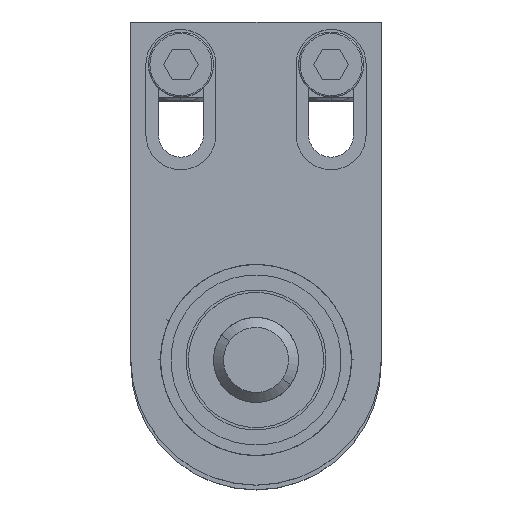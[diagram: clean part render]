
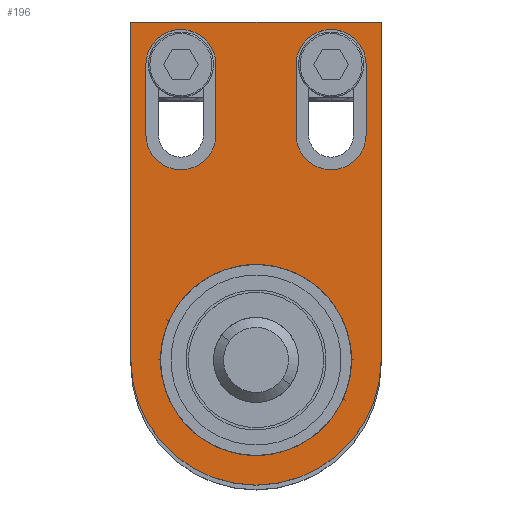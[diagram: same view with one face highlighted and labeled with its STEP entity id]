
A CAD part, top view. The second image highlights one B-rep face of the part: STEP entity #196.
In plain terms, the highlighted planar face has unit normal (0, 0, 1).
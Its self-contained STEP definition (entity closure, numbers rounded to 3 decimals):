
#29 = VECTOR ( 'NONE', #3446, 1000. ) ;
#33 = ORIENTED_EDGE ( 'NONE', *, *, #2317, .F. ) ;
#123 = EDGE_CURVE ( 'NONE', #1216, #1017, #4150, .T. ) ;
#196 = ADVANCED_FACE ( 'NONE', ( #1109, #2413, #4645, #5166 ), #3822, .T. ) ;
#234 = CARTESIAN_POINT ( 'NONE',  ( 8., 59., 6. ) ) ;
#274 = CARTESIAN_POINT ( 'NONE',  ( 25., 0., 6. ) ) ;
#293 = CARTESIAN_POINT ( 'NONE',  ( -8., 59., 6. ) ) ;
#362 = DIRECTION ( 'NONE',  ( 0., 0., 1. ) ) ;
#406 = VERTEX_POINT ( 'NONE', #4793 ) ;
#457 = DIRECTION ( 'NONE',  ( 0., 0., 1. ) ) ;
#618 = AXIS2_PLACEMENT_3D ( 'NONE', #4823, #903, #1039 ) ;
#629 = EDGE_LOOP ( 'NONE', ( #721, #4077, #1627, #4104 ) ) ;
#721 = ORIENTED_EDGE ( 'NONE', *, *, #1110, .F. ) ;
#757 = EDGE_CURVE ( 'NONE', #2417, #3147, #4551, .T. ) ;
#766 = DIRECTION ( 'NONE',  ( 1., 0., 0. ) ) ;
#811 = VERTEX_POINT ( 'NONE', #2382 ) ;
#824 = AXIS2_PLACEMENT_3D ( 'NONE', #2213, #1235, #766 ) ;
#899 = CARTESIAN_POINT ( 'NONE',  ( 0., 0., 6. ) ) ;
#903 = DIRECTION ( 'NONE',  ( 0., 0., 1. ) ) ;
#1017 = VERTEX_POINT ( 'NONE', #5464 ) ;
#1039 = DIRECTION ( 'NONE',  ( 1., 0., 0. ) ) ;
#1109 = FACE_BOUND ( 'NONE', #1809, .T. ) ;
#1110 = EDGE_CURVE ( 'NONE', #1326, #406, #5868, .T. ) ;
#1115 = CARTESIAN_POINT ( 'NONE',  ( -8., 45., 6. ) ) ;
#1117 = VERTEX_POINT ( 'NONE', #4116 ) ;
#1169 = DIRECTION ( 'NONE',  ( 0., 1., 0. ) ) ;
#1216 = VERTEX_POINT ( 'NONE', #3252 ) ;
#1235 = DIRECTION ( 'NONE',  ( 0., 0., 1. ) ) ;
#1326 = VERTEX_POINT ( 'NONE', #293 ) ;
#1627 = ORIENTED_EDGE ( 'NONE', *, *, #4734, .F. ) ;
#1705 = CARTESIAN_POINT ( 'NONE',  ( -15., 45., 6. ) ) ;
#1736 = DIRECTION ( 'NONE',  ( 1., 0., 0. ) ) ;
#1737 = VERTEX_POINT ( 'NONE', #1115 ) ;
#1741 = AXIS2_PLACEMENT_3D ( 'NONE', #2032, #3493, #1736 ) ;
#1763 = DIRECTION ( 'NONE',  ( 0., -1., 0. ) ) ;
#1773 = DIRECTION ( 'NONE',  ( 1., 0., 0. ) ) ;
#1785 = LINE ( 'NONE', #5443, #4159 ) ;
#1809 = EDGE_LOOP ( 'NONE', ( #2020, #5337, #3693, #3588 ) ) ;
#1830 = VERTEX_POINT ( 'NONE', #2512 ) ;
#1866 = DIRECTION ( 'NONE',  ( 0., 1., 0. ) ) ;
#2020 = ORIENTED_EDGE ( 'NONE', *, *, #5460, .F. ) ;
#2032 = CARTESIAN_POINT ( 'NONE',  ( 15., 59., 6. ) ) ;
#2050 = DIRECTION ( 'NONE',  ( 0., 0., 1. ) ) ;
#2070 = CIRCLE ( 'NONE', #1741, 7. ) ;
#2077 = VECTOR ( 'NONE', #5760, 1000. ) ;
#2213 = CARTESIAN_POINT ( 'NONE',  ( 0., 0., 6. ) ) ;
#2317 = EDGE_CURVE ( 'NONE', #4173, #2452, #4539, .T. ) ;
#2373 = ORIENTED_EDGE ( 'NONE', *, *, #5772, .T. ) ;
#2382 = CARTESIAN_POINT ( 'NONE',  ( -22., 45., 6. ) ) ;
#2413 = FACE_BOUND ( 'NONE', #629, .T. ) ;
#2417 = VERTEX_POINT ( 'NONE', #4889 ) ;
#2439 = AXIS2_PLACEMENT_3D ( 'NONE', #899, #362, #4511 ) ;
#2452 = VERTEX_POINT ( 'NONE', #5325 ) ;
#2455 = DIRECTION ( 'NONE',  ( 0., -1., 0. ) ) ;
#2466 = EDGE_CURVE ( 'NONE', #2452, #4173, #4756, .T. ) ;
#2502 = ORIENTED_EDGE ( 'NONE', *, *, #5809, .T. ) ;
#2512 = CARTESIAN_POINT ( 'NONE',  ( 8., 45., 6. ) ) ;
#2706 = DIRECTION ( 'NONE',  ( 0., 0., 1. ) ) ;
#2747 = DIRECTION ( 'NONE',  ( -1., 0., 0. ) ) ;
#2942 = VERTEX_POINT ( 'NONE', #234 ) ;
#2960 = CARTESIAN_POINT ( 'NONE',  ( 8., 59., 6. ) ) ;
#2966 = VERTEX_POINT ( 'NONE', #3044 ) ;
#2969 = DIRECTION ( 'NONE',  ( 1., 0., 0. ) ) ;
#3041 = EDGE_CURVE ( 'NONE', #1117, #2966, #5347, .T. ) ;
#3044 = CARTESIAN_POINT ( 'NONE',  ( 22., 59., 6. ) ) ;
#3062 = VECTOR ( 'NONE', #2455, 1000. ) ;
#3147 = VERTEX_POINT ( 'NONE', #4947 ) ;
#3241 = CIRCLE ( 'NONE', #5753, 7. ) ;
#3250 = DIRECTION ( 'NONE',  ( 1., 0., 0. ) ) ;
#3252 = CARTESIAN_POINT ( 'NONE',  ( 25., 67.5, 6. ) ) ;
#3295 = CARTESIAN_POINT ( 'NONE',  ( -25., 0., 6. ) ) ;
#3446 = DIRECTION ( 'NONE',  ( 0., 1., 0. ) ) ;
#3493 = DIRECTION ( 'NONE',  ( 0., 0., 1. ) ) ;
#3588 = ORIENTED_EDGE ( 'NONE', *, *, #4834, .F. ) ;
#3593 = LINE ( 'NONE', #5749, #29 ) ;
#3693 = ORIENTED_EDGE ( 'NONE', *, *, #3714, .F. ) ;
#3714 = EDGE_CURVE ( 'NONE', #1830, #1117, #3241, .T. ) ;
#3822 = PLANE ( 'NONE',  #618 ) ;
#4013 = VECTOR ( 'NONE', #1866, 1000. ) ;
#4077 = ORIENTED_EDGE ( 'NONE', *, *, #4558, .F. ) ;
#4094 = CARTESIAN_POINT ( 'NONE',  ( -15., 59., 6. ) ) ;
#4098 = EDGE_LOOP ( 'NONE', ( #5830, #33 ) ) ;
#4104 = ORIENTED_EDGE ( 'NONE', *, *, #5099, .F. ) ;
#4116 = CARTESIAN_POINT ( 'NONE',  ( 22., 45., 6. ) ) ;
#4150 = LINE ( 'NONE', #5652, #5094 ) ;
#4159 = VECTOR ( 'NONE', #1763, 1000. ) ;
#4173 = VERTEX_POINT ( 'NONE', #4578 ) ;
#4216 = LINE ( 'NONE', #274, #4013 ) ;
#4292 = CIRCLE ( 'NONE', #4571, 7. ) ;
#4332 = ORIENTED_EDGE ( 'NONE', *, *, #123, .T. ) ;
#4511 = DIRECTION ( 'NONE',  ( 1., 0., 0. ) ) ;
#4521 = CARTESIAN_POINT ( 'NONE',  ( 15., 45., 6. ) ) ;
#4539 = CIRCLE ( 'NONE', #4644, 19.079 ) ;
#4551 = CIRCLE ( 'NONE', #2439, 25. ) ;
#4558 = EDGE_CURVE ( 'NONE', #1737, #1326, #3593, .T. ) ;
#4571 = AXIS2_PLACEMENT_3D ( 'NONE', #1705, #5430, #4926 ) ;
#4578 = CARTESIAN_POINT ( 'NONE',  ( 19.079, 0., 6. ) ) ;
#4644 = AXIS2_PLACEMENT_3D ( 'NONE', #4808, #2050, #2969 ) ;
#4645 = FACE_BOUND ( 'NONE', #4098, .T. ) ;
#4734 = EDGE_CURVE ( 'NONE', #811, #1737, #4292, .T. ) ;
#4756 = CIRCLE ( 'NONE', #824, 19.079 ) ;
#4793 = CARTESIAN_POINT ( 'NONE',  ( -22., 59., 6. ) ) ;
#4803 = AXIS2_PLACEMENT_3D ( 'NONE', #4094, #457, #3250 ) ;
#4808 = CARTESIAN_POINT ( 'NONE',  ( 0., 0., 6. ) ) ;
#4815 = LINE ( 'NONE', #2960, #2077 ) ;
#4823 = CARTESIAN_POINT ( 'NONE',  ( 0., 0., 6. ) ) ;
#4834 = EDGE_CURVE ( 'NONE', #2942, #1830, #4815, .T. ) ;
#4889 = CARTESIAN_POINT ( 'NONE',  ( -25., 0., 6. ) ) ;
#4926 = DIRECTION ( 'NONE',  ( 1., 0., 0. ) ) ;
#4947 = CARTESIAN_POINT ( 'NONE',  ( 25., 0., 6. ) ) ;
#5094 = VECTOR ( 'NONE', #2747, 1000. ) ;
#5099 = EDGE_CURVE ( 'NONE', #406, #811, #1785, .T. ) ;
#5106 = EDGE_LOOP ( 'NONE', ( #5529, #2373, #4332, #2502 ) ) ;
#5166 = FACE_OUTER_BOUND ( 'NONE', #5106, .T. ) ;
#5321 = CARTESIAN_POINT ( 'NONE',  ( 22., 59., 6. ) ) ;
#5325 = CARTESIAN_POINT ( 'NONE',  ( -19.079, 0., 6. ) ) ;
#5337 = ORIENTED_EDGE ( 'NONE', *, *, #3041, .F. ) ;
#5347 = LINE ( 'NONE', #5321, #5421 ) ;
#5421 = VECTOR ( 'NONE', #1169, 1000. ) ;
#5430 = DIRECTION ( 'NONE',  ( 0., 0., 1. ) ) ;
#5443 = CARTESIAN_POINT ( 'NONE',  ( -22., 59., 6. ) ) ;
#5460 = EDGE_CURVE ( 'NONE', #2966, #2942, #2070, .T. ) ;
#5464 = CARTESIAN_POINT ( 'NONE',  ( -25., 67.5, 6. ) ) ;
#5529 = ORIENTED_EDGE ( 'NONE', *, *, #757, .T. ) ;
#5553 = LINE ( 'NONE', #3295, #3062 ) ;
#5652 = CARTESIAN_POINT ( 'NONE',  ( 25., 67.5, 6. ) ) ;
#5749 = CARTESIAN_POINT ( 'NONE',  ( -8., 59., 6. ) ) ;
#5753 = AXIS2_PLACEMENT_3D ( 'NONE', #4521, #2706, #1773 ) ;
#5760 = DIRECTION ( 'NONE',  ( 0., -1., 0. ) ) ;
#5772 = EDGE_CURVE ( 'NONE', #3147, #1216, #4216, .T. ) ;
#5809 = EDGE_CURVE ( 'NONE', #1017, #2417, #5553, .T. ) ;
#5830 = ORIENTED_EDGE ( 'NONE', *, *, #2466, .F. ) ;
#5868 = CIRCLE ( 'NONE', #4803, 7. ) ;
